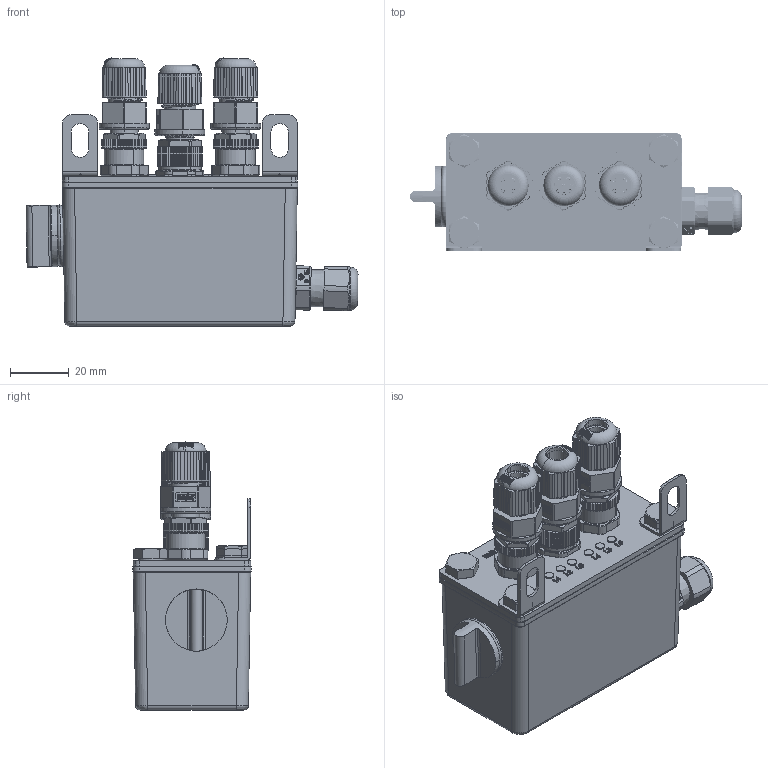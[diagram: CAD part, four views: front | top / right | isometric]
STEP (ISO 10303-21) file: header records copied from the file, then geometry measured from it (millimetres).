
FILE_DESCRIPTION((''),'1');
FILE_NAME('EMLC_plastic-housing.step','2024-03-15T09:11:45',(''),(''),'','','');
FILE_SCHEMA(('AUTOMOTIVE_DESIGN { 1 0 10303 214 1 1 1 1 }'));
Products named in the file (6): EMLC plastic-housing; EMLC plug 01; EMLC cable gland 01; EMLC part 03; EMLC part 04
Assembly tree (5 placements, depth 2):
  EMLC plastic-housing
    EMLC plastic-housing
    EMLC plug 01
    EMLC cable gland 01
    EMLC part 03
    EMLC part 04
Bounding box: 113.12 x 40.3 x 91.32 mm (x, y, z)
Volume: 183095.2 mm3; surface area: 41584 mm2
Topology: 8 solids, 8 shells, 6308 faces, 17073 edges, 11060 vertices
Faces by surface type: plane 2738, extrusion 1327, cylinder 1152, bspline 510, cone 334, torus 169, sphere 78
Entity records: 278557 total; most frequent: CARTESIAN_POINT 127928, ORIENTED_EDGE 33946, DIRECTION 26217, EDGE_CURVE 16973, VERTEX_POINT 11056, VECTOR 10449, LINE 9122, AXIS2_PLACEMENT_3D 7884
